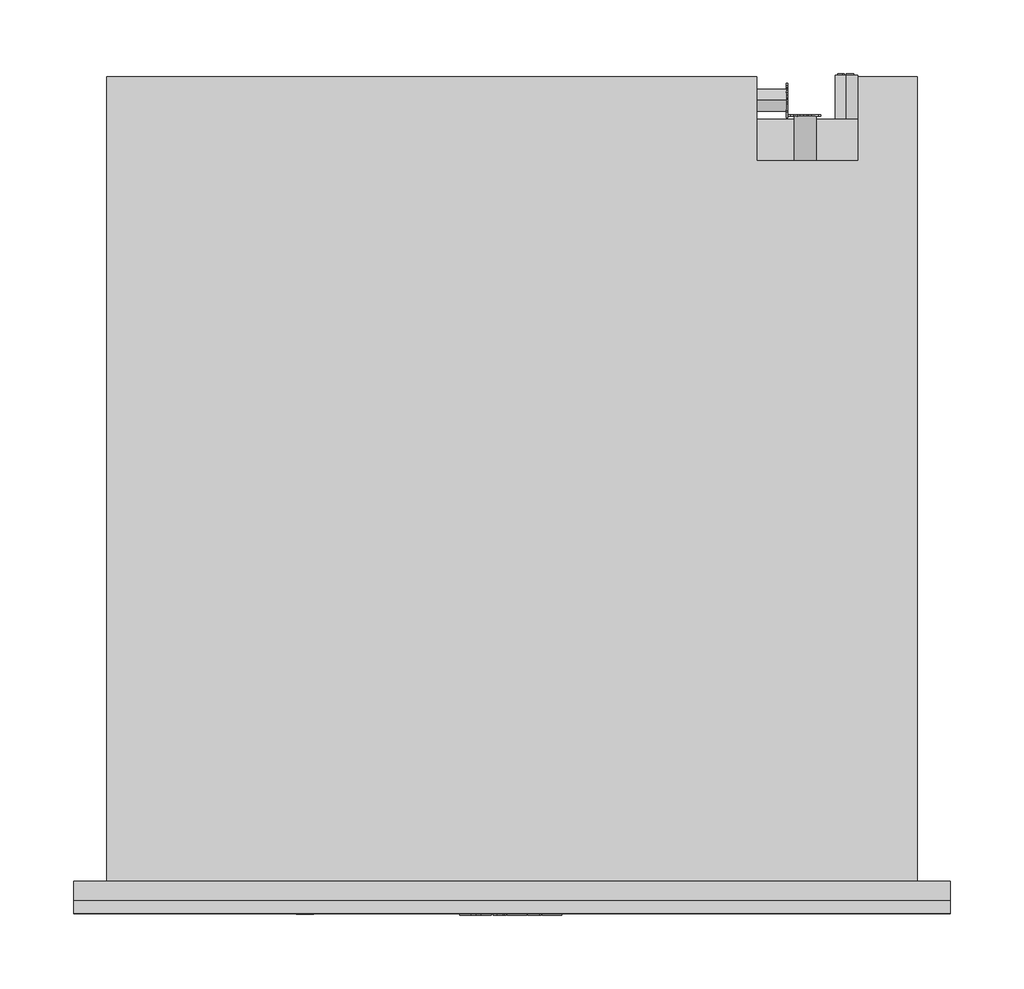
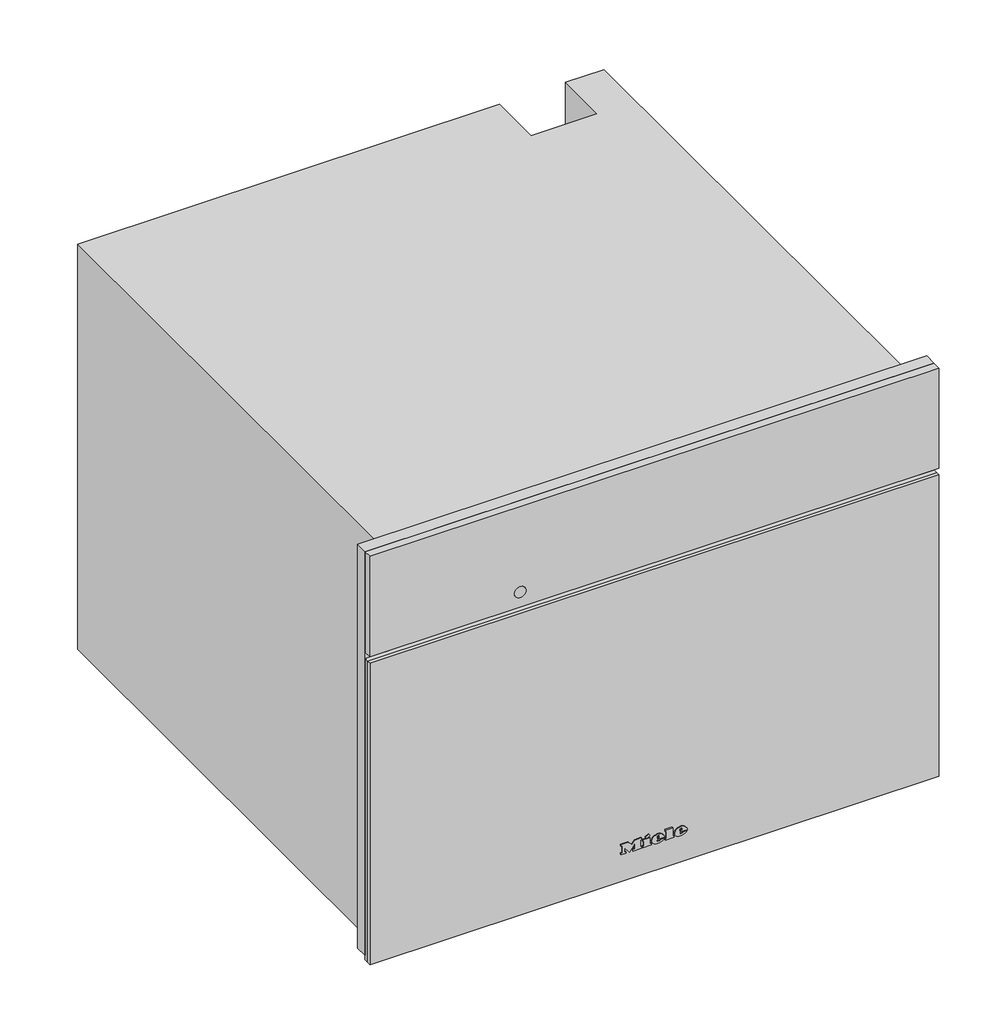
# Not in any storey: 1 proxy.
"""IFC4 building model written with IfcOpenShell, lengths in millimetres."""

import ifcopenshell
import ifcopenshell.guid

model = None  # the IFC model being written
_history = None  # IfcOwnerHistory: only IFC2X3 demands one
_inside = {}  # id of a spatial element -> (the spatial element, [elements in it])
_under = {}  # id of a project, library or spatial element -> (it, [spatial elements below it])
_declared = {}  # id of a project -> (the project, [libraries it declares])
_typed = {}  # id of a type object -> (the type object, [elements of that type])
_made_of = {}  # id of a material, layer set ... -> (it, [elements and type objects made of it])


def new_model(schema):
    """Start an empty IFC model of exactly this schema.

    Asked for "IFC4X3", IfcOpenShell would pick the latest addendum, in which some entities
    have other attributes; the version numbers below select the first issue.
    IFC2X3 requires an IfcOwnerHistory on every rooted entity: one is made here for all.
    """
    global model, _history
    if schema == "IFC4X3":
        model = ifcopenshell.file(schema_version=(4, 3, 0, 0))
    else:
        model = ifcopenshell.file(schema=schema)
    _inside.clear()
    _under.clear()
    _declared.clear()
    _typed.clear()
    _made_of.clear()
    _history = None
    if model.schema == "IFC2X3":
        org = make("IfcOrganization", Name="unknown")
        user = make(
            "IfcPersonAndOrganization",
            ThePerson=make("IfcPerson", FamilyName="unknown"),
            TheOrganization=org,
        )
        app = make(
            "IfcApplication",
            ApplicationDeveloper=org,
            Version="unknown",
            ApplicationFullName="unknown",
            ApplicationIdentifier="unknown",
        )
        _history = make(
            "IfcOwnerHistory",
            OwningUser=user,
            OwningApplication=app,
            ChangeAction="ADDED",
            CreationDate=0,
        )
    return model


def make(cls, **values):
    """One entity of the class cls with the attributes given. An attribute that is None is left unset."""
    return model.create_entity(
        cls, **{name: value for name, value in values.items() if value is not None}
    )


def rooted(cls, **values):
    """An entity with a GlobalId (a new one), such as an element, a storey or a relation."""
    return make(cls, GlobalId=ifcopenshell.guid.new(), OwnerHistory=_history, **values)


def si_unit(unit_type, name, prefix=None):
    """IfcSIUnit, for example si_unit("LENGTHUNIT", "METRE", prefix="MILLI")."""
    return make("IfcSIUnit", UnitType=unit_type, Prefix=prefix, Name=name)


def assignment(units):
    """IfcUnitAssignment: the units of a project."""
    return None if units is None else make("IfcUnitAssignment", Units=units)


def point(xyz):
    """IfcCartesianPoint."""
    return None if xyz is None else make("IfcCartesianPoint", Coordinates=xyz)


def direction(xyz):
    """IfcDirection."""
    return None if xyz is None else make("IfcDirection", DirectionRatios=xyz)


def frame(location, z_axis=None, x_axis=None):
    """IfcAxis2Placement3D, a coordinate frame: its origin and axes. An axis left out is left unset."""
    return make(
        "IfcAxis2Placement3D",
        Location=point(location),
        Axis=direction(z_axis),
        RefDirection=direction(x_axis),
    )


def frame_2d(location, x_axis=None):
    """IfcAxis2Placement2D, a coordinate frame in the plane: its origin and x axis."""
    return make(
        "IfcAxis2Placement2D", Location=point(location), RefDirection=direction(x_axis)
    )


def origin():
    """The frame at (0, 0, 0) with its axes left unset."""
    return frame((0.0, 0.0, 0.0))


def place(relative_to, where):
    """IfcLocalPlacement: puts the frame where relative to a parent placement (None: the world)."""
    return make(
        "IfcLocalPlacement", PlacementRelTo=relative_to, RelativePlacement=where
    )


def context(
    kind, dimensions, precision=None, world=None, true_north=None, identifier=None
):
    """IfcGeometricRepresentationContext, for example the 3D "Model" context."""
    return make(
        "IfcGeometricRepresentationContext",
        ContextIdentifier=identifier,
        ContextType=kind,
        CoordinateSpaceDimension=dimensions,
        Precision=precision,
        WorldCoordinateSystem=world,
        TrueNorth=true_north,
    )


def project(units=None, contexts=None):
    """IfcProject with its units and contexts."""
    return rooted(
        "IfcProject",
        Name="project",
        RepresentationContexts=contexts,
        UnitsInContext=assignment(units),
    )


def spatial(cls, under=None, at=None, **own):
    """A site, building, storey or space (cls), placed at a placement, below another one or the project."""
    s = rooted(cls, ObjectPlacement=at, **own)
    if under is not None:
        _under.setdefault(under.id(), (under, []))[1].append(s)
    return s


def polyline(points):
    """IfcPolyline through the points."""
    return make("IfcPolyline", Points=[point(p) for p in points])


def circle_curve(where, radius):
    """IfcCircle in the frame where."""
    return make("IfcCircle", Position=where, Radius=radius)


def ellipse_curve(where, semi_axis1, semi_axis2):
    """IfcEllipse in the frame where."""
    return make(
        "IfcEllipse", Position=where, SemiAxis1=semi_axis1, SemiAxis2=semi_axis2
    )


def trimmed(basis, trim1, trim2, sense, master):
    """IfcTrimmedCurve: the piece of a basis curve between two trims."""
    return make(
        "IfcTrimmedCurve",
        BasisCurve=basis,
        Trim1=trim1,
        Trim2=trim2,
        SenseAgreement=sense,
        MasterRepresentation=master,
    )


def segment(curve, same_sense, transition):
    """IfcCompositeCurveSegment."""
    return make(
        "IfcCompositeCurveSegment",
        Transition=transition,
        SameSense=same_sense,
        ParentCurve=curve,
    )


def composite_curve(segments, self_intersect=None):
    """IfcCompositeCurve: segments joined end to end."""
    return make("IfcCompositeCurve", Segments=segments, SelfIntersect=self_intersect)


def outline(outer, holes=None, kind="AREA"):
    """IfcArbitraryClosedProfileDef: a profile drawn as a closed curve; with holes, ...WithVoids."""
    if holes is None:
        return make("IfcArbitraryClosedProfileDef", ProfileType=kind, OuterCurve=outer)
    return make(
        "IfcArbitraryProfileDefWithVoids",
        ProfileType=kind,
        OuterCurve=outer,
        InnerCurves=holes,
    )


def extrude(swept, where, along, depth):
    """IfcExtrudedAreaSolid: the profile swept, set in the frame where, extruded along a direction by depth."""
    return make(
        "IfcExtrudedAreaSolid",
        SweptArea=swept,
        Position=where,
        ExtrudedDirection=direction(along),
        Depth=depth,
    )


def faces_of(points, faces, orient=None, outer=None):
    """IfcFace entities. A face is a list of loops; a loop is a list of indices into points, from 0.

    orient and outer hold one flag for each loop. By default every Orientation is true, the
    first loop of a face is its IfcFaceOuterBound and the others are IfcFaceBound.
    """
    made = []
    for i, loops in enumerate(faces):
        bounds = []
        for j, loop in enumerate(loops):
            is_outer = j == 0 if outer is None else outer[i][j]
            bounds.append(
                make(
                    "IfcFaceOuterBound" if is_outer else "IfcFaceBound",
                    Bound=make("IfcPolyLoop", Polygon=[points[k] for k in loop]),
                    Orientation=True if orient is None else orient[i][j],
                )
            )
        made.append(make("IfcFace", Bounds=bounds))
    return made


def faceted_brep(points, faces, orient=None, outer=None, voids=None):
    """IfcFacetedBrep: a solid bounded by flat faces; with voids (closed shells), ...WithVoids."""
    shared = [point(p) for p in points]
    hull = make("IfcClosedShell", CfsFaces=faces_of(shared, faces, orient, outer))
    if voids is None:
        return make("IfcFacetedBrep", Outer=hull)
    return make(
        "IfcFacetedBrepWithVoids",
        Outer=hull,
        Voids=[
            make(cls, CfsFaces=faces_of(shared, fs, o, b)) for cls, fs, o, b in voids
        ],
    )


def shape(context_of_items, identifier, shape_type, items):
    """IfcShapeRepresentation: the items that make up one representation, for example the "Body"."""
    return make(
        "IfcShapeRepresentation",
        ContextOfItems=context_of_items,
        RepresentationIdentifier=identifier,
        RepresentationType=shape_type,
        Items=items,
    )


def source(mapping_origin, context_of_items, identifier, shape_type, items):
    """IfcRepresentationMap: a shape defined once, which mapped items show again and again."""
    return make(
        "IfcRepresentationMap",
        MappingOrigin=mapping_origin,
        MappedRepresentation=shape(context_of_items, identifier, shape_type, items),
    )


def transform(
    local_origin,
    x_axis=None,
    y_axis=None,
    z_axis=None,
    scale=None,
    scale2=None,
    scale3=None,
    uniform=True,
):
    """IfcCartesianTransformationOperator3D, or its non-uniform kind. x_axis, y_axis, z_axis: its Axis1, 2, 3."""
    if uniform:
        return make(
            "IfcCartesianTransformationOperator3D",
            Axis1=direction(x_axis),
            Axis2=direction(y_axis),
            LocalOrigin=point(local_origin),
            Scale=scale,
            Axis3=direction(z_axis),
        )
    return make(
        "IfcCartesianTransformationOperator3DnonUniform",
        Axis1=direction(x_axis),
        Axis2=direction(y_axis),
        LocalOrigin=point(local_origin),
        Scale=scale,
        Axis3=direction(z_axis),
        Scale2=scale2,
        Scale3=scale3,
    )


def mapped(mapping_source, mapping_target):
    """IfcMappedItem: shows the shape of a source again, moved by a transform."""
    return make(
        "IfcMappedItem", MappingSource=mapping_source, MappingTarget=mapping_target
    )


def made_of(thing, what):
    """Note that an element or type object is made of a material, layer set ...; save() writes the relation."""
    if what is not None:
        _made_of.setdefault(what.id(), (what, []))[1].append(thing)
    return thing


def element(
    cls,
    number,
    at=None,
    inside=None,
    cuts=None,
    type_object=None,
    material=None,
    context=None,
    identifier="Body",
    shape_type=None,
    held_by="IfcProductDefinitionShape",
    body=None,
    shapes=None,
    **own,
):
    """One element of the class cls, such as IfcWall. Its Tag is "e" and its number.

    at: its placement. inside: the storey or other place that contains it. cuts: it is an
    opening in that element (IfcRelVoidsElement). A single representation is given by context,
    identifier, shape_type and body (its items); several are given by shapes. held_by: the class
    of the entity that holds the representations. save() writes the other relations.
    """
    e = rooted(cls, Tag="e%d" % number, ObjectPlacement=at, **own)
    if body is not None:
        shapes = [shape(context, identifier, shape_type, body)]
    if shapes is not None:
        e.Representation = make(held_by, Representations=shapes)
    if inside is not None:
        _inside.setdefault(inside.id(), (inside, []))[1].append(e)
    if cuts is not None:
        rooted(
            "IfcRelVoidsElement", RelatingBuildingElement=cuts, RelatedOpeningElement=e
        )
    if type_object is not None:
        _typed.setdefault(type_object.id(), (type_object, []))[1].append(e)
    return made_of(e, material)


def aggregate(whole, parts):
    """IfcRelAggregates: a whole, such as a stair, and the parts it consists of."""
    return rooted("IfcRelAggregates", RelatingObject=whole, RelatedObjects=parts)


def save(model, path):
    """Write the relations noted so far, then the file.

    IfcRelAggregates (storeys below a building ...), IfcRelContainedInSpatialStructure (elements
    in a storey), IfcRelDefinesByType, IfcRelAssociatesMaterial and IfcRelDeclares: one each for
    every whole, place, type object, material and project.
    """
    for whole, parts in _under.values():
        aggregate(whole, parts)
    for where, things in _inside.values():
        rooted(
            "IfcRelContainedInSpatialStructure",
            RelatedElements=things,
            RelatingStructure=where,
        )
    for kind, things in _typed.values():
        rooted("IfcRelDefinesByType", RelatedObjects=things, RelatingType=kind)
    for what, things in _made_of.values():
        rooted("IfcRelAssociatesMaterial", RelatedObjects=things, RelatingMaterial=what)
    for by, libraries in _declared.values():
        rooted("IfcRelDeclares", RelatingContext=by, RelatedDefinitions=libraries)
    model.write(path)


def plane_surface(at):
    """IfcPlane: the flat surface through the origin of the frame at, square to its z axis."""
    return make("IfcPlane", Position=at)


def cylinder_surface(at, radius):
    """IfcCylindricalSurface: all points at the distance radius from the z axis of the frame at."""
    return make("IfcCylindricalSurface", Position=at, Radius=radius)


def revolved_surface(curve, axis_point, axis_direction):
    """IfcSurfaceOfRevolution: the curve turned about the line through axis_point along axis_direction."""
    return make(
        "IfcSurfaceOfRevolution",
        SweptCurve=make("IfcArbitraryOpenProfileDef", ProfileType="CURVE", Curve=curve),
        AxisPosition=make("IfcAxis1Placement", Location=point(axis_point), Axis=direction(axis_direction)),
    )


def extruded_surface(curve, direction_of_extrusion, depth):
    """IfcSurfaceOfLinearExtrusion: the curve pushed along a direction by depth."""
    return make(
        "IfcSurfaceOfLinearExtrusion",
        SweptCurve=make("IfcArbitraryOpenProfileDef", ProfileType="CURVE", Curve=curve),
        ExtrudedDirection=direction(direction_of_extrusion),
        Depth=depth,
    )


def advanced_brep(points, edges, surfaces, faces):
    """IfcAdvancedBrep: a solid bounded by faces that lie on surfaces and meet in shared edges.

    An edge is (start, end): straight between two places in points (the first is 0);
    or (start, end, curve); or (start, end, curve, False) where it runs against its curve.
    A face is (place in surfaces, loops), or (place, loops, False) where it looks against
    its surface's normal. A loop lists edges by number (the first is 1), with a minus sign
    where the edge is run from its end to its start. The first loop is the outer one.
    """
    corners = [point(p) for p in points]
    vertices = [make("IfcVertexPoint", VertexGeometry=c) for c in corners]
    made = []
    for start, end, *more in edges:
        made.append(
            make(
                "IfcEdgeCurve",
                EdgeStart=vertices[start],
                EdgeEnd=vertices[end],
                EdgeGeometry=more[0] if more else make("IfcPolyline", Points=[corners[start], corners[end]]),
                SameSense=more[1] if len(more) > 1 else True,
            )
        )
    hull = []
    for where, loops, *sense in faces:
        bounds = []
        for j, loop in enumerate(loops):
            ring = [make("IfcOrientedEdge", EdgeElement=made[abs(k) - 1], Orientation=k > 0) for k in loop]
            bounds.append(
                make(
                    "IfcFaceOuterBound" if j == 0 else "IfcFaceBound",
                    Bound=make("IfcEdgeLoop", EdgeList=ring),
                    Orientation=True,
                )
            )
        hull.append(make("IfcAdvancedFace", Bounds=bounds, FaceSurface=surfaces[where], SameSense=sense[0] if sense else True))
    return make("IfcAdvancedBrep", Outer=make("IfcClosedShell", CfsFaces=hull))


def specialty_equipment_60738759(model_context):
    return source(origin(), model_context, "Body", "SolidModel", [
        extrude(outline(polyline([(455.0, 297.5), (455.0, -297.5), (9.0, -297.5), (9.0, 297.5), (455.0, 297.5)]), holes=[polyline([(344.0, -272.5), (344.0, 272.5), (27.0, 272.5), (27.0, -272.5), (344.0, -272.5)])]), frame((0.0, -13.0, 0.0), z_axis=(0.0, 1.0, 0.0), x_axis=(0.0, 0.0, 1.0)), (0.0, 0.0, 1.0), 13.0),
        extrude(outline(polyline([(383.0, 196.9217896), (383.0, 198.4267862), (393.0435673, 201.1942402), (393.0435673, 199.9014806), (384.4295103, 197.7797951), (393.0470645, 195.3087512), (393.0470645, 193.4373937), (384.4121052, 190.9191482), (393.0472266, 188.8443938), (393.0472266, 187.5376524), (383.0, 190.2769667), (383.0, 191.6257455), (391.8347238, 194.3884733), (383.0, 196.9217896)])), frame((0.0, 519.0, 0.0), z_axis=(0.0, 1.0, 0.0), x_axis=(0.0, 0.0, 1.0)), (0.0, 0.0, 1.0), 1.0),
        extrude(outline(polyline([(393.0468463, 209.521488), (393.0468463, 208.2566067), (388.129594, 208.2566067), (393.0474898, 203.1074328), (393.0474898, 201.3597489), (388.9313111, 205.6695027), (383.0, 201.1858157), (383.0, 202.7358731), (388.0700777, 206.5685235), (386.4282746, 208.2823622), (383.0, 208.2823622), (383.0, 209.521488), (393.0468463, 209.521488)])), frame((0.0, 519.0, 0.0), z_axis=(0.0, 1.0, 0.0), x_axis=(0.0, 0.0, 1.0)), (0.0, 0.0, 1.0), 1.0),
        extrude(outline(polyline([(518.3136153, 20.0), (522.323529, 30.045631), (523.3928394, 30.045631), (527.4027531, 20.0), (526.0759254, 20.0), (524.925681, 23.1392597), (520.7882348, 23.1392597), (519.640443, 20.0), (518.3136153, 20.0)]), holes=[polyline([(521.2493136, 24.3949636), (524.4670548, 24.3949636), (523.5620651, 26.864678), (522.8581842, 28.7899271), (522.2327848, 27.0805021), (521.2493136, 24.3949636)])]), frame((186.0, 0.0, 0.0), z_axis=(1.0, 0.0, 0.0), x_axis=(0.0, 1.0, 0.0)), (0.0, 0.0, 1.0), 1.0),
        extrude(outline(polyline([(530.5420128, 20.0), (527.8025182, 30.045631), (529.0974628, 30.045631), (530.6867131, 23.4433755), (531.1772224, 21.4053092), (531.7020674, 23.207931), (533.6935352, 30.045631), (535.5599232, 30.045631), (537.0069257, 25.0890343), (538.0835937, 21.4053092), (538.5593878, 23.3845144), (540.1633533, 30.045631), (541.4582979, 30.045631), (538.7163507, 20.0), (537.3748077, 20.0), (534.9664069, 27.7500474), (534.630408, 28.8316204), (534.2527159, 27.5293182), (532.0576866, 20.0), (530.5420128, 20.0)])), frame((186.0, 0.0, 0.0), z_axis=(1.0, 0.0, 0.0), x_axis=(0.0, 1.0, 0.0)), (0.0, 0.0, 1.0), 1.0),
        advanced_brep(
        [(227.0, 547.0, 255.5), (227.0, 547.0, 240.5), (221.4098301, 547.0, 243.0), (225.5, 547.0, 243.0), (225.5, 547.0, 253.0), (224.4955303, 547.0, 253.0), (224.4955303, 547.0, 244.0), (221.0315043, 547.0, 244.0), (221.0315043, 547.0, 243.4582978), (232.0, 547.0, 243.0), (232.0, 547.0, 253.0), (227.0, 547.0, 253.0), (227.0, 547.0, 252.0), (231.0, 547.0, 252.0), (231.0, 547.0, 248.5), (228.0, 547.0, 248.5), (228.0, 547.0, 247.5), (231.0, 547.0, 247.5), (231.0, 547.0, 244.0), (227.0, 547.0, 244.0), (227.0, 547.0, 243.0), (227.0, 517.0, 240.5), (227.0, 517.0, 255.5), (232.0, 548.0, 253.0), (232.0, 548.0, 243.0), (227.0, 548.0, 243.0), (227.0, 548.0, 244.0), (231.0, 548.0, 244.0), (231.0, 548.0, 247.5), (228.0, 548.0, 247.5), (228.0, 548.0, 248.5), (231.0, 548.0, 248.5), (231.0, 548.0, 252.0), (227.0, 548.0, 252.0), (227.0, 548.0, 253.0), (225.5, 548.0, 243.0), (221.0315043, 548.0, 243.0), (221.0315043, 548.0, 244.0), (224.4955303, 548.0, 244.0), (224.4955303, 548.0, 253.0), (225.5, 548.0, 253.0), (221.0315043, 547.0, 243.0)],
        [
            (0, 1, circle_curve(frame((227.0, 547.0, 248.0), z_axis=(0.0, 1.0, 0.0), x_axis=(0.0, 0.0, 1.0)), 7.5)),
            (1, 2, circle_curve(frame((227.0, 547.0, 248.0), z_axis=(0.0, 1.0, 0.0), x_axis=(0.0, 0.0, 1.0)), 7.5)),
            (2, 3),
            (3, 4),
            (4, 5),
            (5, 6),
            (6, 7),
            (7, 8),
            (8, 0, circle_curve(frame((227.0, 547.0, 248.0), z_axis=(0.0, 1.0, 0.0), x_axis=(0.0, 0.0, 1.0)), 7.5)),
            (9, 10),
            (10, 11),
            (11, 12),
            (12, 13),
            (13, 14),
            (14, 15),
            (15, 16),
            (16, 17),
            (17, 18),
            (18, 19),
            (19, 20),
            (20, 9),
            (21, 22, circle_curve(frame((227.0, 517.0, 248.0), z_axis=(0.0, -1.0, 0.0), x_axis=(0.0, 0.0, 1.0)), 7.5)),
            (22, 21, circle_curve(frame((227.0, 517.0, 248.0), z_axis=(0.0, -1.0, 0.0), x_axis=(0.0, 0.0, 1.0)), 7.5)),
            (0, 22),
            (21, 1),
            (8, 2, circle_curve(frame((227.0, 547.0, 248.0), z_axis=(0.0, -1.0, 0.0), x_axis=(0.0, 0.0, 1.0)), 7.5)),
            (23, 24),
            (24, 25),
            (25, 26),
            (26, 27),
            (27, 28),
            (28, 29),
            (29, 30),
            (30, 31),
            (31, 32),
            (32, 33),
            (33, 34),
            (34, 23),
            (35, 36),
            (36, 37),
            (37, 38),
            (38, 39),
            (39, 40),
            (40, 35),
            (8, 41),
            (41, 2),
            (23, 10),
            (9, 24),
            (20, 25),
            (19, 26),
            (18, 27),
            (17, 28),
            (16, 29),
            (15, 30),
            (14, 31),
            (13, 32),
            (12, 33),
            (11, 34),
            (35, 3),
            (41, 36),
            (7, 37),
            (6, 38),
            (5, 39),
            (4, 40),
        ],
        [
            plane_surface(frame((227.0, 547.0, 255.5), z_axis=(0.0, 1.0, 0.0), x_axis=(1.0, 0.0, 0.0))),
            plane_surface(frame((227.0, 517.0, 255.5), z_axis=(0.0, -1.0, 0.0), x_axis=(-1.0, 0.0, 0.0))),
            cylinder_surface(frame((227.0, 547.0, 248.0), z_axis=(0.0, -1.0, 0.0), x_axis=(0.0, 0.0, 1.0)), 7.5),
            plane_surface(frame((232.0, 548.0, 253.0), z_axis=(0.0, 1.0, 0.0), x_axis=(0.0, 0.0, -1.0))),
            plane_surface(frame((232.0, 547.0, 253.0), z_axis=(0.0, -1.0, 0.0), x_axis=(0.0, 0.0, 1.0))),
            plane_surface(frame((232.0, 548.0, 253.0), z_axis=(1.0, 0.0, 0.0), x_axis=(0.0, -1.0, 0.0))),
            plane_surface(frame((232.0, 548.0, 243.0), z_axis=(0.0, 0.0, -1.0), x_axis=(0.0, -1.0, 0.0))),
            plane_surface(frame((227.0, 548.0, 243.0), z_axis=(-1.0, 0.0, 0.0), x_axis=(0.0, -1.0, 0.0))),
            plane_surface(frame((227.0, 548.0, 244.0), z_axis=(0.0, 0.0, 1.0), x_axis=(0.0, -1.0, 0.0))),
            plane_surface(frame((231.0, 548.0, 244.0), z_axis=(-1.0, 0.0, 0.0), x_axis=(0.0, -1.0, 0.0))),
            plane_surface(frame((231.0, 548.0, 247.5), z_axis=(0.0, 0.0, -1.0), x_axis=(0.0, -1.0, 0.0))),
            plane_surface(frame((228.0, 548.0, 247.5), z_axis=(-1.0, 0.0, 0.0), x_axis=(0.0, -1.0, 0.0))),
            plane_surface(frame((228.0, 548.0, 248.5), z_axis=(0.0, 0.0, 1.0), x_axis=(0.0, -1.0, 0.0))),
            plane_surface(frame((231.0, 548.0, 248.5), z_axis=(-1.0, 0.0, 0.0), x_axis=(0.0, -1.0, 0.0))),
            plane_surface(frame((231.0, 548.0, 252.0), z_axis=(0.0, 0.0, -1.0), x_axis=(0.0, -1.0, 0.0))),
            plane_surface(frame((227.0, 548.0, 252.0), z_axis=(-1.0, 0.0, 0.0), x_axis=(0.0, -1.0, 0.0))),
            plane_surface(frame((227.0, 548.0, 253.0), z_axis=(0.0, 0.0, 1.0), x_axis=(0.0, -1.0, 0.0))),
            plane_surface(frame((225.5, 548.0, 243.0), z_axis=(0.0, 0.0, -1.0), x_axis=(0.0, -1.0, 0.0))),
            plane_surface(frame((221.0315043, 548.0, 243.0), z_axis=(-1.0, 0.0, 0.0), x_axis=(0.0, -1.0, 0.0))),
            plane_surface(frame((221.0315043, 548.0, 244.0), z_axis=(0.0, 0.0, 1.0), x_axis=(0.0, -1.0, 0.0))),
            plane_surface(frame((224.4955303, 548.0, 244.0), z_axis=(-1.0, 0.0, 0.0), x_axis=(0.0, -1.0, 0.0))),
            plane_surface(frame((224.4955303, 548.0, 253.0), z_axis=(0.0, 0.0, 1.0), x_axis=(0.0, -1.0, 0.0))),
            plane_surface(frame((225.5, 548.0, 253.0), z_axis=(1.0, 0.0, 0.0), x_axis=(0.0, -1.0, 0.0))),
        ],
        [
            (0, [[1, 2, 3, 4, 5, 6, 7, 8, 9], [10, 11, 12, 13, 14, 15, 16, 17, 18, 19, 20, 21]]),
            (1, [[22, 23]]),
            (2, [[-1, 24, -22, 25]]),
            (2, [[-23, -24, -9, 26, -2, -25]]),
            (3, [[27, 28, 29, 30, 31, 32, 33, 34, 35, 36, 37, 38]]),
            (3, [[39, 40, 41, 42, 43, 44]]),
            (4, [[45, 46, -26]]),
            (5, [[-27, 47, -10, 48]]),
            (6, [[-28, -48, -21, 49]]),
            (7, [[-29, -49, -20, 50]]),
            (8, [[-30, -50, -19, 51]]),
            (9, [[-31, -51, -18, 52]]),
            (10, [[-32, -52, -17, 53]]),
            (11, [[-33, -53, -16, 54]]),
            (12, [[-34, -54, -15, 55]]),
            (13, [[-35, -55, -14, 56]]),
            (14, [[-36, -56, -13, 57]]),
            (15, [[-37, -57, -12, 58]]),
            (16, [[-38, -58, -11, -47]]),
            (17, [[-39, 59, -3, -46, 60]]),
            (18, [[-40, -60, -45, -8, 61]]),
            (19, [[-41, -61, -7, 62]]),
            (20, [[-42, -62, -6, 63]]),
            (21, [[-43, -63, -5, 64]]),
            (22, [[-44, -64, -4, -59]]),
        ],
    ),
        extrude(outline(composite_curve([segment(trimmed(circle_curve(frame_2d((388.0, 199.0)), 7.5), [point((388.0, 206.5))], [point((388.0, 191.5))], False, "CARTESIAN"), True, "CONTINUOUS"), segment(trimmed(circle_curve(frame_2d((388.0, 199.0)), 7.5), [point((388.0, 191.5))], [point((388.0, 206.5))], False, "CARTESIAN"), True, "CONTINUOUS")], self_intersect=False)), frame((0.0, 489.0, 0.0), z_axis=(0.0, 1.0, 0.0), x_axis=(0.0, 0.0, 1.0)), (0.0, 0.0, 1.0), 30.0),
        extrude(outline(composite_curve([segment(trimmed(circle_curve(frame_2d((530.0, 25.0)), 7.5), [point((530.0, 17.5))], [point((530.0, 32.5))], False, "CARTESIAN"), True, "CONTINUOUS"), segment(trimmed(circle_curve(frame_2d((530.0, 25.0)), 7.5), [point((530.0, 32.5))], [point((530.0, 17.5))], False, "CARTESIAN"), True, "CONTINUOUS")], self_intersect=False)), frame((166.0, 0.0, 0.0), z_axis=(1.0, 0.0, 0.0), x_axis=(0.0, 1.0, 0.0)), (0.0, 0.0, 1.0), 20.0),
        faceted_brep([(-275.0, 546.0, 0.0), (-275.0, 546.0, 448.0), (166.0, 546.0, 448.0), (166.0, 546.0, 0.0), (235.0, 546.0, 448.0), (275.0, 546.0, 448.0), (275.0, 546.0, 338.0), (235.0, 546.0, 338.0), (275.0, 0.0, 448.0), (-275.0, 0.0, 448.0), (-275.0, 0.0, 0.0), (275.0, 0.0, 0.0), (-272.5, 0.0, 344.0), (272.5, 0.0, 344.0), (272.5, 0.0, 27.0), (-272.5, 0.0, 27.0), (235.0, 489.0, 448.0), (166.0, 489.0, 448.0), (166.0, 517.0, 0.0), (275.0, 517.0, 0.0), (275.0, 517.0, 338.0), (272.5, 17.0, 344.0), (-272.5, 17.0, 344.0), (-272.5, 17.0, 27.0), (272.5, 17.0, 27.0), (231.0, 17.0, 307.0), (231.0, 17.0, 65.0), (-231.0, 17.0, 65.0), (-231.0, 17.0, 307.0), (231.0, 411.0, 307.0), (-231.0, 411.0, 307.0), (-231.0, 411.0, 65.0), (231.0, 411.0, 65.0), (235.0, 489.0, 337.0), (166.0, 489.0, 337.0), (166.0, 517.0, 337.0), (235.0, 517.0, 337.0), (235.0, 517.0, 338.0)], [[[0, 1, 2, 3]], [[4, 5, 6, 7]], [[8, 9, 10, 11], [12, 13, 14, 15]], [[9, 8, 5, 4, 16, 17, 2, 1]], [[1, 0, 10, 9]], [[11, 10, 0, 3, 18, 19]], [[8, 11, 19, 20, 6, 5]], [[21, 22, 23, 24], [25, 26, 27, 28]], [[22, 21, 13, 12]], [[23, 22, 12, 15]], [[24, 23, 15, 14]], [[21, 24, 14, 13]], [[29, 30, 31, 32]], [[29, 32, 26, 25]], [[32, 31, 27, 26]], [[31, 30, 28, 27]], [[30, 29, 25, 28]], [[16, 33, 34, 17]], [[17, 34, 35, 18, 3, 2]], [[34, 33, 36, 35]], [[33, 16, 4, 7, 37, 36]], [[37, 20, 19, 18, 35, 36]], [[20, 37, 7, 6]]]),
        advanced_brep(
        [(26.2998, -23.0, 36.7018), (26.2998, -23.0, 37.8532), (33.9264, -23.0, 37.8532), (20.6568, -23.0, 37.8532), (23.7918, -23.0, 34.0), (33.7326, -23.0, 36.7018), (30.2898, -23.0, 36.7018), (27.5766, -23.0, 35.425), (26.2998, -23.0, 39.3124), (26.2998, -23.0, 40.555), (28.2492, -23.0, 40.555), (28.2492, -23.0, 39.3124), (26.2998, -22.0, 36.7018), (27.5766, -22.0, 35.425), (30.2898, -22.0, 36.7018), (33.7326, -22.0, 36.7018), (23.7918, -22.0, 34.0), (20.6568, -22.0, 37.8532), (33.9264, -22.0, 37.8532), (26.2998, -22.0, 37.8532), (26.2998, -22.0, 39.3124), (28.2492, -22.0, 39.3124), (28.2492, -22.0, 40.555), (26.2998, -22.0, 40.555)],
        [
            (0, 1),
            (1, 2),
            (2, 3, ellipse_curve(frame((27.2916, -23.0, 37.8532), z_axis=(0.0, -1.0, 0.0), x_axis=(-1.0, 0.0, 0.0)), 6.6348, 5.4834)),
            (3, 4, circle_curve(frame((25.0686622, -23.0, 38.2408), z_axis=(0.0, -1.0, 0.0), x_axis=(0.0, 0.0, -1.0)), 4.4288556)),
            (4, 5, circle_curve(frame((27.1587808, -23.0, 41.2504), z_axis=(0.0, -1.0, 0.0), x_axis=(0.0, 0.0, -1.0)), 7.9940516)),
            (5, 6),
            (6, 7, circle_curve(frame((28.1338588, -23.0, 37.762), z_axis=(0.0, 1.0, 0.0), x_axis=(0.0, 0.0, -1.0)), 2.4025208)),
            (7, 0, circle_curve(frame((27.5766, -23.0, 36.7018), z_axis=(0.0, 1.0, 0.0), x_axis=(0.0, 0.0, -1.0)), 1.2768)),
            (8, 9),
            (9, 10, circle_curve(frame((27.2745, -23.0, 40.555), z_axis=(0.0, 1.0, 0.0), x_axis=(0.0, 0.0, -1.0)), 0.9747)),
            (10, 11),
            (11, 8),
            (12, 13, circle_curve(frame((27.5766, -22.0, 36.7018), z_axis=(0.0, -1.0, 0.0), x_axis=(0.0, 0.0, -1.0)), 1.2768)),
            (13, 14, circle_curve(frame((28.1338588, -22.0, 37.762), z_axis=(0.0, -1.0, 0.0), x_axis=(0.0, 0.0, -1.0)), 2.4025208)),
            (14, 15),
            (15, 16, circle_curve(frame((27.1587808, -22.0, 41.2504), z_axis=(0.0, 1.0, 0.0), x_axis=(0.0, 0.0, -1.0)), 7.9940516)),
            (16, 17, circle_curve(frame((25.0686622, -22.0, 38.2408), z_axis=(0.0, 1.0, 0.0), x_axis=(0.0, 0.0, -1.0)), 4.4288556)),
            (17, 18, ellipse_curve(frame((27.2916, -22.0, 37.8532), z_axis=(0.0, 1.0, 0.0), x_axis=(-1.0, 0.0, 0.0)), 6.6348, 5.4834)),
            (18, 19),
            (19, 12),
            (20, 21),
            (21, 22),
            (22, 23, circle_curve(frame((27.2745, -22.0, 40.555), z_axis=(0.0, -1.0, 0.0), x_axis=(0.0, 0.0, -1.0)), 0.9747)),
            (23, 20),
            (0, 12),
            (19, 1),
            (18, 2),
            (5, 15),
            (14, 6),
            (17, 3),
            (13, 7),
            (16, 4),
            (8, 20),
            (23, 9),
            (22, 10),
            (21, 11),
        ],
        [
            plane_surface(frame((26.2998, -23.0, 37.8532), z_axis=(0.0, -1.0, 0.0), x_axis=(0.0, 0.0, 1.0))),
            plane_surface(frame((26.2998, -22.0, 37.8532), z_axis=(0.0, 1.0, 0.0), x_axis=(0.0, 0.0, -1.0))),
            plane_surface(frame((26.2998, -23.0, 36.7018), z_axis=(1.0, 0.0, 0.0), x_axis=(0.0, 1.0, 0.0))),
            plane_surface(frame((26.2998, -23.0, 37.8532), z_axis=(0.0, 0.0, -1.0), x_axis=(0.0, 1.0, 0.0))),
            plane_surface(frame((33.7326, -23.0, 36.7018), z_axis=(0.0, 0.0, 1.0), x_axis=(0.0, 1.0, 0.0))),
            extruded_surface(trimmed(ellipse_curve(frame((27.2916, -21.0, 37.8532), z_axis=(0.0, -1.0, 0.0), x_axis=(-1.0, 0.0, 0.0)), 6.6348, 5.4834), [point((33.9264, -21.0, 37.8532))], [point((20.6568, -21.0, 37.8532))], True, "CARTESIAN"), (0.0, -1.0, 0.0), 1.0),
            revolved_surface(polyline([(28.1338588, -22.0, 35.3594792), (28.1338588, -23.0, 35.3594792)]), (28.1338588, -22.0, 37.762), (0.0, 1.0, 0.0)),
            revolved_surface(polyline([(27.5766, -22.0, 35.425), (27.5766, -23.0, 35.425)]), (27.5766, -22.0, 36.7018), (0.0, 1.0, 0.0)),
            cylinder_surface(frame((25.0686622, -22.0, 38.2408), z_axis=(0.0, -1.0, 0.0), x_axis=(0.0, 0.0, -1.0)), 4.4288556),
            cylinder_surface(frame((27.1587808, -22.0, 41.2504), z_axis=(0.0, -1.0, 0.0), x_axis=(0.0, 0.0, -1.0)), 7.9940516),
            plane_surface(frame((26.2998, -23.0, 39.3124), z_axis=(1.0, 0.0, 0.0), x_axis=(0.0, 1.0, 0.0))),
            revolved_surface(polyline([(27.2745, -22.0, 39.5803), (27.2745, -23.0, 39.5803)]), (27.2745, -22.0, 40.555), (0.0, 1.0, 0.0)),
            plane_surface(frame((28.2492, -23.0, 40.555), z_axis=(-1.0, 0.0, 0.0), x_axis=(0.0, 1.0, 0.0))),
            plane_surface(frame((28.2492, -23.0, 39.3124), z_axis=(0.0, 0.0, 1.0), x_axis=(0.0, 1.0, 0.0))),
        ],
        [
            (0, [[1, 2, 3, 4, 5, 6, 7, 8], [9, 10, 11, 12]]),
            (1, [[13, 14, 15, 16, 17, 18, 19, 20], [21, 22, 23, 24]]),
            (2, [[-1, 25, -20, 26]]),
            (3, [[-2, -26, -19, 27]]),
            (4, [[-6, 28, -15, 29]]),
            (5, [[-3, -27, -18, 30]]),
            (6, [[-7, -29, -14, 31]]),
            (7, [[-8, -31, -13, -25]]),
            (8, [[-4, -30, -17, 32]]),
            (9, [[-5, -32, -16, -28]]),
            (10, [[-9, 33, -24, 34]]),
            (11, [[-10, -34, -23, 35]]),
            (12, [[-11, -35, -22, 36]]),
            (13, [[-12, -36, -21, -33]]),
        ],
    ),
        advanced_brep(
        [(2.508, -23.0, 36.7018), (2.508, -23.0, 37.8532), (10.1346, -23.0, 37.8532), (-3.135, -23.0, 37.8532), (0.0, -23.0, 34.0), (9.9408, -23.0, 36.7018), (6.498, -23.0, 36.7018), (3.7848, -23.0, 35.425), (2.508, -23.0, 39.3124), (2.508, -23.0, 40.555), (4.4574, -23.0, 40.555), (4.4574, -23.0, 39.3124), (2.508, -22.0, 36.7018), (3.7848, -22.0, 35.425), (6.498, -22.0, 36.7018), (9.9408, -22.0, 36.7018), (0.0, -22.0, 34.0), (-3.135, -22.0, 37.8532), (10.1346, -22.0, 37.8532), (2.508, -22.0, 37.8532), (2.508, -22.0, 39.3124), (4.4574, -22.0, 39.3124), (4.4574, -22.0, 40.555), (2.508, -22.0, 40.555)],
        [
            (0, 1),
            (1, 2),
            (2, 3, ellipse_curve(frame((3.4998, -23.0, 37.8532), z_axis=(0.0, -1.0, 0.0), x_axis=(-1.0, 0.0, 0.0)), 6.6348, 5.4834)),
            (3, 4, circle_curve(frame((1.2768622, -23.0, 38.2408), z_axis=(0.0, -1.0, 0.0), x_axis=(0.0, 0.0, -1.0)), 4.4288556)),
            (4, 5, circle_curve(frame((3.3669808, -23.0, 41.2504), z_axis=(0.0, -1.0, 0.0), x_axis=(0.0, 0.0, -1.0)), 7.9940516)),
            (5, 6),
            (6, 7, circle_curve(frame((4.3420588, -23.0, 37.762), z_axis=(0.0, 1.0, 0.0), x_axis=(0.0, 0.0, -1.0)), 2.4025208)),
            (7, 0, circle_curve(frame((3.7848, -23.0, 36.7018), z_axis=(0.0, 1.0, 0.0), x_axis=(0.0, 0.0, -1.0)), 1.2768)),
            (8, 9),
            (9, 10, circle_curve(frame((3.4827, -23.0, 40.555), z_axis=(0.0, 1.0, 0.0), x_axis=(0.0, 0.0, -1.0)), 0.9747)),
            (10, 11),
            (11, 8),
            (12, 13, circle_curve(frame((3.7848, -22.0, 36.7018), z_axis=(0.0, -1.0, 0.0), x_axis=(0.0, 0.0, -1.0)), 1.2768)),
            (13, 14, circle_curve(frame((4.3420588, -22.0, 37.762), z_axis=(0.0, -1.0, 0.0), x_axis=(0.0, 0.0, -1.0)), 2.4025208)),
            (14, 15),
            (15, 16, circle_curve(frame((3.3669808, -22.0, 41.2504), z_axis=(0.0, 1.0, 0.0), x_axis=(0.0, 0.0, -1.0)), 7.9940516)),
            (16, 17, circle_curve(frame((1.2768622, -22.0, 38.2408), z_axis=(0.0, 1.0, 0.0), x_axis=(0.0, 0.0, -1.0)), 4.4288556)),
            (17, 18, ellipse_curve(frame((3.4998, -22.0, 37.8532), z_axis=(0.0, 1.0, 0.0), x_axis=(-1.0, 0.0, 0.0)), 6.6348, 5.4834)),
            (18, 19),
            (19, 12),
            (20, 21),
            (21, 22),
            (22, 23, circle_curve(frame((3.4827, -22.0, 40.555), z_axis=(0.0, -1.0, 0.0), x_axis=(0.0, 0.0, -1.0)), 0.9747)),
            (23, 20),
            (0, 12),
            (19, 1),
            (18, 2),
            (5, 15),
            (14, 6),
            (17, 3),
            (13, 7),
            (16, 4),
            (8, 20),
            (23, 9),
            (22, 10),
            (21, 11),
        ],
        [
            plane_surface(frame((2.508, -23.0, 37.8532), z_axis=(0.0, -1.0, 0.0), x_axis=(0.0, 0.0, 1.0))),
            plane_surface(frame((2.508, -22.0, 37.8532), z_axis=(0.0, 1.0, 0.0), x_axis=(0.0, 0.0, -1.0))),
            plane_surface(frame((2.508, -23.0, 36.7018), z_axis=(1.0, 0.0, 0.0), x_axis=(0.0, 1.0, 0.0))),
            plane_surface(frame((2.508, -23.0, 37.8532), z_axis=(0.0, 0.0, -1.0), x_axis=(0.0, 1.0, 0.0))),
            plane_surface(frame((9.9408, -23.0, 36.7018), z_axis=(0.0, 0.0, 1.0), x_axis=(0.0, 1.0, 0.0))),
            extruded_surface(trimmed(ellipse_curve(frame((3.4998, -21.0, 37.8532), z_axis=(0.0, -1.0, 0.0), x_axis=(-1.0, 0.0, 0.0)), 6.6348, 5.4834), [point((10.1346, -21.0, 37.8532))], [point((-3.135, -21.0, 37.8532))], True, "CARTESIAN"), (0.0, -1.0, 0.0), 1.0),
            revolved_surface(polyline([(4.3420588, -22.0, 35.3594792), (4.3420588, -23.0, 35.3594792)]), (4.3420588, -22.0, 37.762), (0.0, 1.0, 0.0)),
            revolved_surface(polyline([(3.7848, -22.0, 35.425), (3.7848, -23.0, 35.425)]), (3.7848, -22.0, 36.7018), (0.0, 1.0, 0.0)),
            cylinder_surface(frame((1.2768622, -22.0, 38.2408), z_axis=(0.0, -1.0, 0.0), x_axis=(0.0, 0.0, -1.0)), 4.4288556),
            cylinder_surface(frame((3.3669808, -22.0, 41.2504), z_axis=(0.0, -1.0, 0.0), x_axis=(0.0, 0.0, -1.0)), 7.9940516),
            plane_surface(frame((2.508, -23.0, 39.3124), z_axis=(1.0, 0.0, 0.0), x_axis=(0.0, 1.0, 0.0))),
            revolved_surface(polyline([(3.4827, -22.0, 39.5803), (3.4827, -23.0, 39.5803)]), (3.4827, -22.0, 40.555), (0.0, 1.0, 0.0)),
            plane_surface(frame((4.4574, -23.0, 40.555), z_axis=(-1.0, 0.0, 0.0), x_axis=(0.0, 1.0, 0.0))),
            plane_surface(frame((4.4574, -23.0, 39.3124), z_axis=(0.0, 0.0, 1.0), x_axis=(0.0, 1.0, 0.0))),
        ],
        [
            (0, [[1, 2, 3, 4, 5, 6, 7, 8], [9, 10, 11, 12]]),
            (1, [[13, 14, 15, 16, 17, 18, 19, 20], [21, 22, 23, 24]]),
            (2, [[-1, 25, -20, 26]]),
            (3, [[-2, -26, -19, 27]]),
            (4, [[-6, 28, -15, 29]]),
            (5, [[-3, -27, -18, 30]]),
            (6, [[-7, -29, -14, 31]]),
            (7, [[-8, -31, -13, -25]]),
            (8, [[-4, -30, -17, 32]]),
            (9, [[-5, -32, -16, -28]]),
            (10, [[-9, 33, -24, 34]]),
            (11, [[-10, -34, -23, 35]]),
            (12, [[-11, -35, -22, 36]]),
            (13, [[-12, -36, -21, -33]]),
        ],
    ),
        extrude(outline(polyline([(44.7274, -9.9522), (42.8806, -9.0858), (44.6818, -5.2212), (46.5286, -6.0762), (44.7274, -9.9522)])), frame((0.0, -23.0, 0.0), z_axis=(0.0, 1.0, 0.0), x_axis=(0.0, 0.0, 1.0)), (0.0, 0.0, 1.0), 1.0),
        extrude(outline(polyline([(42.6298, -12.768), (40.5892, -12.768), (40.5892, -11.4114), (35.9152, -11.4114), (35.9152, -12.768), (34.0, -12.768), (34.0, -3.7734), (35.9152, -3.7734), (35.9152, -5.0958), (42.6298, -5.0958), (42.6298, -12.768)])), frame((0.0, -23.0, 0.0), z_axis=(0.0, 1.0, 0.0), x_axis=(0.0, 0.0, 1.0)), (0.0, 0.0, 1.0), 1.0),
        extrude(outline(polyline([(43.5418, 10.773), (43.5418, 12.141), (35.9152, 12.141), (35.9152, 10.773), (34.0, 10.773), (34.0, 20.0184), (35.9152, 20.0184), (35.9152, 18.6162), (45.4, 18.6162), (45.4, 10.773), (43.5418, 10.773)])), frame((0.0, -23.0, 0.0), z_axis=(0.0, 1.0, 0.0), x_axis=(0.0, 0.0, 1.0)), (0.0, 0.0, 1.0), 1.0),
        extrude(outline(polyline([(43.5418, -35.4882), (43.5418, -34.1088), (35.9152, -34.1088), (35.9152, -35.4882), (34.0, -35.4882), (34.0, -30.4722), (35.9152, -30.4722), (35.9152, -31.8402), (40.7429247, -31.8402), (34.0, -26.7444), (40.9402223, -21.6258), (35.9152, -21.6258), (35.9152, -23.028), (34.0, -23.028), (34.0, -13.9308), (35.9152, -13.9308), (35.9152, -15.3786), (43.5418, -15.3786), (43.5418, -13.9308), (45.4, -13.9308), (45.4, -20.8734), (41.125, -24.2022), (45.4, -27.5424), (45.4, -35.4882), (43.5418, -35.4882)])), frame((0.0, -23.0, 0.0), z_axis=(0.0, 1.0, 0.0), x_axis=(0.0, 0.0, 1.0)), (0.0, 0.0, 1.0), 1.0),
        extrude(outline(polyline([(297.5, -22.0), (-297.5, -22.0), (-297.5, -13.0), (297.5, -13.0), (297.5, -22.0)])), frame((0.0, 0.0, 344.0), z_axis=(0.0, 0.0, 1.0), x_axis=(1.0, 0.0, 0.0)), (0.0, 0.0, 1.0), 111.0),
        extrude(outline(composite_curve([segment(trimmed(circle_curve(frame_2d((361.0, -140.5745637)), 6.0), [point((361.0, -146.5745637))], [point((361.0, -134.5745637))], False, "CARTESIAN"), True, "CONTINUOUS"), segment(trimmed(circle_curve(frame_2d((361.0, -140.5745637)), 6.0), [point((361.0, -134.5745637))], [point((361.0, -146.5745637))], False, "CARTESIAN"), True, "CONTINUOUS")], self_intersect=False)), frame((0.0, -22.5, 0.0), z_axis=(0.0, 1.0, 0.0), x_axis=(0.0, 0.0, 1.0)), (0.0, 0.0, 1.0), 1.0),
        extrude(outline(polyline([(-297.5, -18.0), (297.5, -18.0), (297.5, -22.0), (-297.5, -22.0), (-297.5, -18.0)])), frame((0.0, 0.0, 4.0), z_axis=(0.0, 0.0, 1.0), x_axis=(1.0, 0.0, 0.0)), (0.0, 0.0, 1.0), 333.0),
        extrude(outline(polyline([(297.5, -18.0), (-297.5, -18.0), (-297.5, -13.0), (297.5, -13.0), (297.5, -18.0)])), frame((0.0, 0.0, 4.0), z_axis=(0.0, 0.0, 1.0), x_axis=(1.0, 0.0, 0.0)), (0.0, 0.0, 1.0), 333.0),
    ])


model = new_model("IFC4")

# Units and contexts
model_context = context("Model", 3, world=origin())
ifc_project = project(units=[si_unit("LENGTHUNIT", "METRE", prefix="MILLI")], contexts=[model_context])

# Site, building
site = spatial("IfcSite", under=ifc_project)
building = spatial("IfcBuilding", under=site)

# Proxy
placement = place(None, origin())
specialty_equipment_shape = specialty_equipment_60738759(model_context)
element("IfcBuildingElementProxy", 1, Name="12305530_D_DGC7445HCXPro_OBSWM : 23744588_D_12305530_DGC7445HCXPro_OBSWM", ObjectType="12305530_D_DGC7445HCXPro_OBSWM : 23744588_D_12305530_DGC7445HCXPro_OBSWM", at=placement, inside=building, context=model_context, shape_type="MappedRepresentation", body=[
    mapped(specialty_equipment_shape, transform((0.0, 0.0, 0.0), x_axis=(1.0, 0.0, 0.0), y_axis=(0.0, 1.0, 0.0), z_axis=(0.0, 0.0, 1.0))),
])

save(model, "model.ifc")
